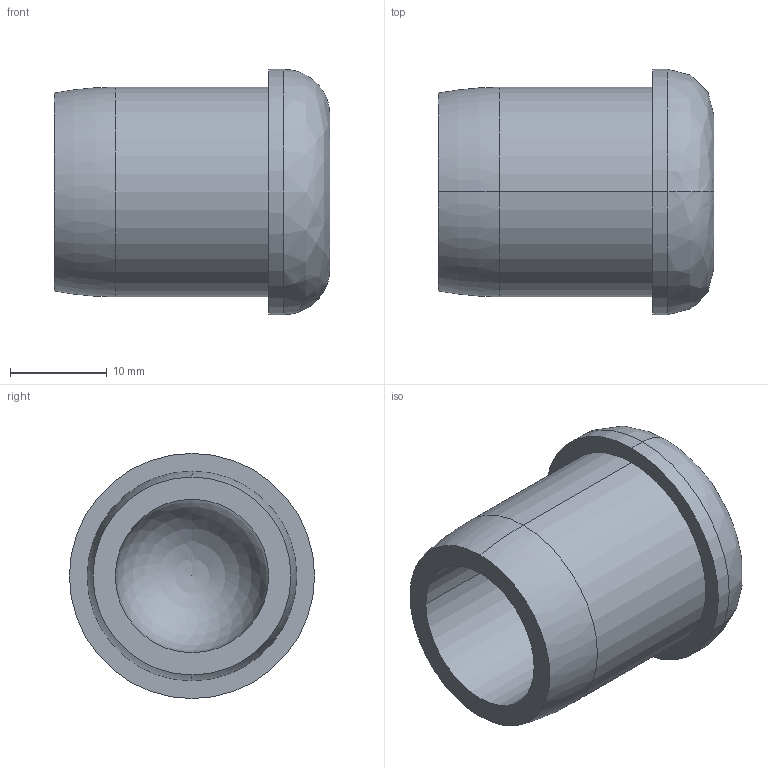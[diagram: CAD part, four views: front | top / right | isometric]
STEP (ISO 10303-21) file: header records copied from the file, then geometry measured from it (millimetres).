
FILE_DESCRIPTION (( 'STEP AP203' ), '1' );
FILE_NAME ('FDPCK-MC.875-END-CAP.step', '2019-09-11T18:37:56', ( 'ydmin' ), ( '' ), 'SwSTEP 2.0', 'SolidWorks 2017', '' );
FILE_SCHEMA (( 'CONFIG_CONTROL_DESIGN' ));
Length unit declared in the file: inch
Products named in the file (1): FDPCK-MC.875-END-CAP
Bounding box: 28.57 x 25.4 x 25.4 mm (x, y, z)
Volume: 7131.1 mm3; surface area: 3729.8 mm2
Topology: 1 solids, 1 shells, 16 faces, 35 edges, 21 vertices
Faces by surface type: cylinder 6, plane 3, bspline 2, torus 2, cone 2, sphere 1
Entity records: 511 total; most frequent: CARTESIAN_POINT 102, DIRECTION 78, ORIENTED_EDGE 60, AXIS2_PLACEMENT_3D 35, EDGE_CURVE 30, CIRCLE 20, EDGE_LOOP 19, VERTEX_POINT 19
